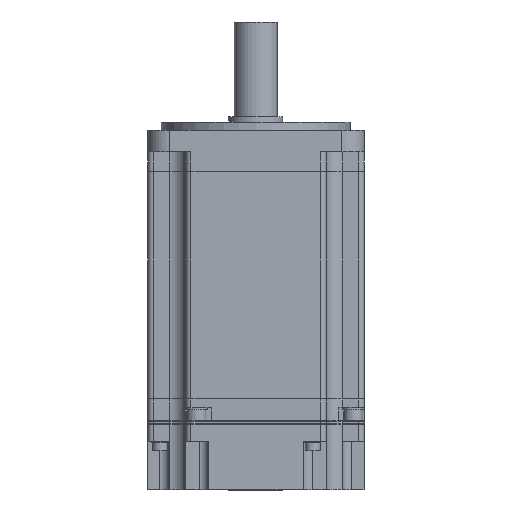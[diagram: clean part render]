
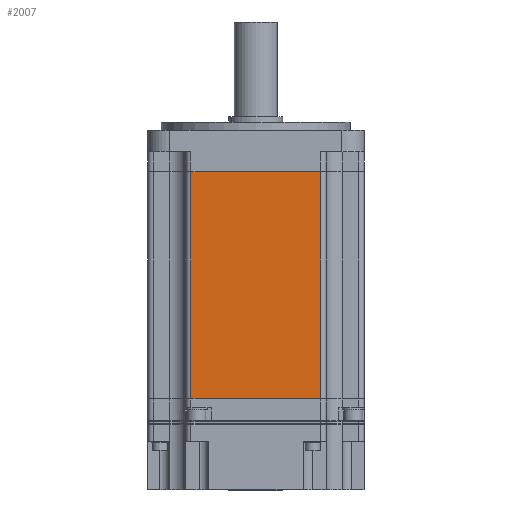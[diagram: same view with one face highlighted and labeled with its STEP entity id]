
A CAD part, front view. The second image highlights one B-rep face of the part: STEP entity #2007.
In plain terms, the highlighted planar face has unit normal (0, -1, 0).
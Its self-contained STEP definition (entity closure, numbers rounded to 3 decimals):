
#997 = VERTEX_POINT ( 'NONE', #7446 ) ;
#998 = VERTEX_POINT ( 'NONE', #7445 ) ;
#1061 = EDGE_CURVE ( 'NONE', #997, #998, #7526, .T. ) ;
#1836 = VERTEX_POINT ( 'NONE', #9204 ) ;
#1841 = EDGE_CURVE ( 'NONE', #997, #1836, #9201, .T. ) ;
#2007 = ADVANCED_FACE ( 'NONE', ( #9534 ), #9533, .T. ) ;
#2008 = EDGE_LOOP ( 'NONE', ( #2036, #2040, #2043, #2045 ) ) ;
#2013 = EDGE_CURVE ( 'NONE', #998, #2014, #9522, .T. ) ;
#2014 = VERTEX_POINT ( 'NONE', #9518 ) ;
#2036 = ORIENTED_EDGE ( 'NONE', *, *, #2038, .T. ) ;
#2038 = EDGE_CURVE ( 'NONE', #1836, #2014, #9599, .T. ) ;
#2040 = ORIENTED_EDGE ( 'NONE', *, *, #2013, .F. ) ;
#2043 = ORIENTED_EDGE ( 'NONE', *, *, #1061, .F. ) ;
#2045 = ORIENTED_EDGE ( 'NONE', *, *, #1841, .T. ) ;
#7445 = CARTESIAN_POINT ( 'NONE',  ( 24., -40., -15.4 ) ) ;
#7446 = CARTESIAN_POINT ( 'NONE',  ( -24., -40., -15.4 ) ) ;
#7523 = DIRECTION ( 'NONE',  ( 1., 0., 0. ) ) ;
#7524 = VECTOR ( 'NONE', #7523, 1000. ) ;
#7525 = CARTESIAN_POINT ( 'NONE',  ( -24., -40., -15.4 ) ) ;
#7526 = LINE ( 'NONE', #7525, #7524 ) ;
#9201 = LINE ( 'NONE', #9258, #9257 ) ;
#9204 = CARTESIAN_POINT ( 'NONE',  ( -24., -40., -99.2 ) ) ;
#9256 = DIRECTION ( 'NONE',  ( 0., 0., -1. ) ) ;
#9257 = VECTOR ( 'NONE', #9256, 1000. ) ;
#9258 = CARTESIAN_POINT ( 'NONE',  ( -24., -40., 14.627 ) ) ;
#9518 = CARTESIAN_POINT ( 'NONE',  ( 24., -40., -99.2 ) ) ;
#9519 = DIRECTION ( 'NONE',  ( 0., 0., -1. ) ) ;
#9520 = VECTOR ( 'NONE', #9519, 1000. ) ;
#9521 = CARTESIAN_POINT ( 'NONE',  ( 24., -40., 14.627 ) ) ;
#9522 = LINE ( 'NONE', #9521, #9520 ) ;
#9529 = DIRECTION ( 'NONE',  ( 1., 0., 0. ) ) ;
#9530 = DIRECTION ( 'NONE',  ( 0., -1., 0. ) ) ;
#9531 = CARTESIAN_POINT ( 'NONE',  ( -40., -40., -8. ) ) ;
#9532 = AXIS2_PLACEMENT_3D ( 'NONE', #9531, #9530, #9529 ) ;
#9533 = PLANE ( 'NONE',  #9532 ) ;
#9534 = FACE_OUTER_BOUND ( 'NONE', #2008, .T. ) ;
#9596 = DIRECTION ( 'NONE',  ( 1., 0., 0. ) ) ;
#9597 = VECTOR ( 'NONE', #9596, 1000. ) ;
#9598 = CARTESIAN_POINT ( 'NONE',  ( -24., -40., -99.2 ) ) ;
#9599 = LINE ( 'NONE', #9598, #9597 ) ;
